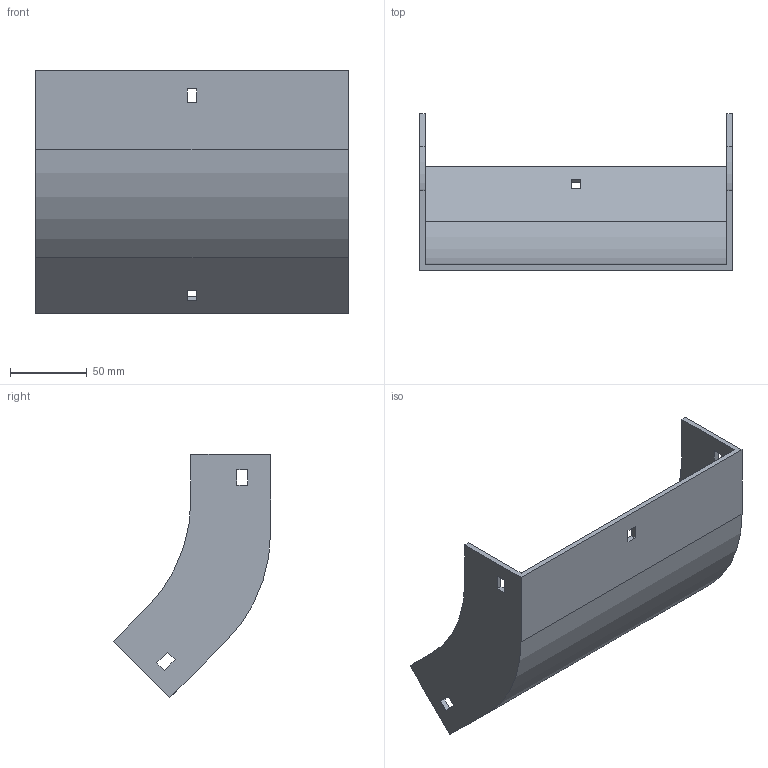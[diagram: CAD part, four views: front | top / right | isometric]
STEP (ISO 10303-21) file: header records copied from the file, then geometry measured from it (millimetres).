
FILE_DESCRIPTION (( 'STEP AP214' ), '1' );
FILE_NAME ('31F1B200.step', '2025-02-21T13:00:00', ( '' ), ( '' ), 'SwSTEP 2.0', 'SolidWorks 2023', '' );
FILE_SCHEMA (( 'AUTOMOTIVE_DESIGN' ));
Length unit declared in the file: millimetre
Products named in the file (1): 31F1B200
Bounding box: 204 x 102.5 x 158.69 mm (x, y, z)
Volume: 182723.4 mm3; surface area: 108192.8 mm2
Topology: 1 solids, 1 shells, 42 faces, 120 edges, 80 vertices
Faces by surface type: plane 38, cylinder 4
Entity records: 1399 total; most frequent: CARTESIAN_POINT 243, ORIENTED_EDGE 240, DIRECTION 214, EDGE_CURVE 120, LINE 112, VECTOR 112, VERTEX_POINT 80, EDGE_LOOP 54
